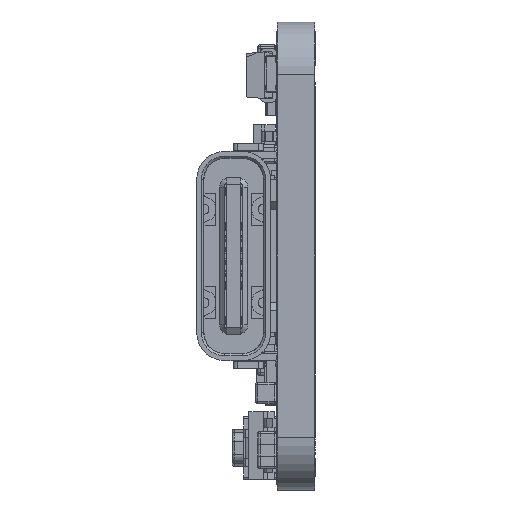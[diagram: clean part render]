
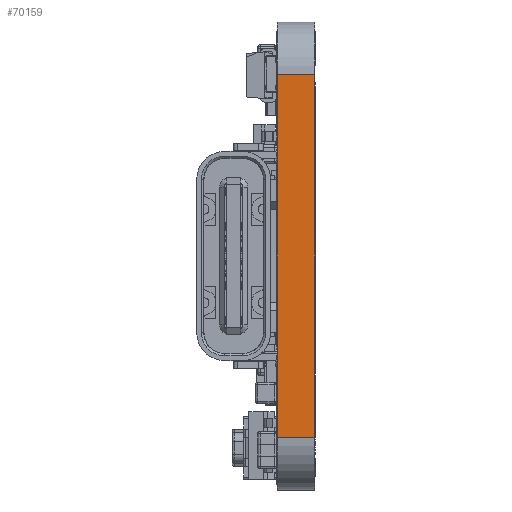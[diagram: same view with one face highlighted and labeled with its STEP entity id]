
A CAD part, left-side view. The second image highlights one B-rep face of the part: STEP entity #70159.
In plain terms, the highlighted planar face has unit normal (-1, 0, 0).
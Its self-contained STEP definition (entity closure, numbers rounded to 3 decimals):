
#1573 = CARTESIAN_POINT ( 'NONE',  ( 100., 0., -117.75 ) ) ;
#1630 = CARTESIAN_POINT ( 'NONE',  ( 100., 0., -102.25 ) ) ;
#2223 = CARTESIAN_POINT ( 'NONE',  ( 100., -1.6, -117.75 ) ) ;
#2241 = CARTESIAN_POINT ( 'NONE',  ( 100., -1.6, -102.25 ) ) ;
#2493 = DIRECTION ( 'NONE',  ( 0., 0., 1. ) ) ;
#3838 = DIRECTION ( 'NONE',  ( 0., 1., 0. ) ) ;
#3879 = CARTESIAN_POINT ( 'NONE',  ( 100., -1.6, -102.25 ) ) ;
#5846 = CARTESIAN_POINT ( 'NONE',  ( 100., 0., -102.25 ) ) ;
#7725 = VECTOR ( 'NONE', #2493, 1000. ) ;
#7788 = LINE ( 'NONE', #5846, #7725 ) ;
#20924 = DIRECTION ( 'NONE',  ( 0., 0., 1. ) ) ;
#20927 = CARTESIAN_POINT ( 'NONE',  ( 100., -1.6, -102.25 ) ) ;
#21650 = VECTOR ( 'NONE', #20924, 1000. ) ;
#21678 = LINE ( 'NONE', #20927, #21650 ) ;
#22245 = LINE ( 'NONE', #23759, #22304 ) ;
#22304 = VECTOR ( 'NONE', #23719, 1000. ) ;
#23719 = DIRECTION ( 'NONE',  ( 0., 1., 0. ) ) ;
#23759 = CARTESIAN_POINT ( 'NONE',  ( 100., -1.6, -117.75 ) ) ;
#41940 = AXIS2_PLACEMENT_3D ( 'NONE', #67282, #67288, #67277 ) ;
#67277 = DIRECTION ( 'NONE',  ( 0., 0., 1. ) ) ;
#67282 = CARTESIAN_POINT ( 'NONE',  ( 100., -1.6, -102.25 ) ) ;
#67288 = DIRECTION ( 'NONE',  ( -1., 0., 0. ) ) ;
#67333 = PLANE ( 'NONE',  #41940 ) ;
#69082 = EDGE_LOOP ( 'NONE', ( #93691, #93639, #93708, #93702 ) ) ;
#70026 = FACE_OUTER_BOUND ( 'NONE', #69082, .T. ) ;
#70159 = ADVANCED_FACE ( 'NONE', ( #70026 ), #67333, .T. ) ;
#77524 = VERTEX_POINT ( 'NONE', #1630 ) ;
#77536 = VERTEX_POINT ( 'NONE', #1573 ) ;
#79182 = VERTEX_POINT ( 'NONE', #2223 ) ;
#79219 = VERTEX_POINT ( 'NONE', #2241 ) ;
#81224 = EDGE_CURVE ( 'NONE', #79219, #77524, #231334, .T. ) ;
#81967 = EDGE_CURVE ( 'NONE', #77536, #77524, #7788, .T. ) ;
#83434 = EDGE_CURVE ( 'NONE', #79182, #79219, #21678, .T. ) ;
#93639 = ORIENTED_EDGE ( 'NONE', *, *, #97376, .F. ) ;
#93691 = ORIENTED_EDGE ( 'NONE', *, *, #81967, .F. ) ;
#93702 = ORIENTED_EDGE ( 'NONE', *, *, #81224, .T. ) ;
#93708 = ORIENTED_EDGE ( 'NONE', *, *, #83434, .T. ) ;
#97376 = EDGE_CURVE ( 'NONE', #79182, #77536, #22245, .T. ) ;
#231334 = LINE ( 'NONE', #3879, #231337 ) ;
#231337 = VECTOR ( 'NONE', #3838, 1000. ) ;
